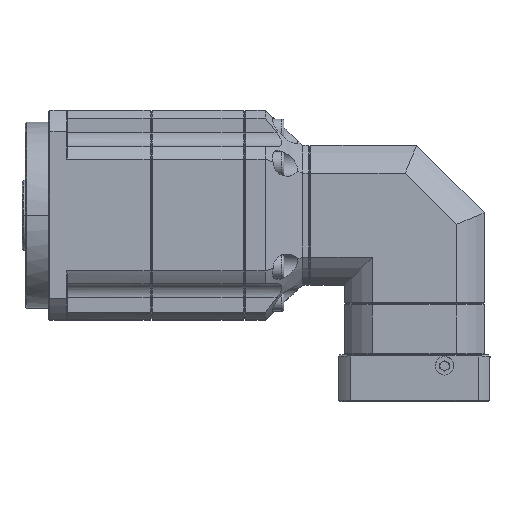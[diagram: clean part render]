
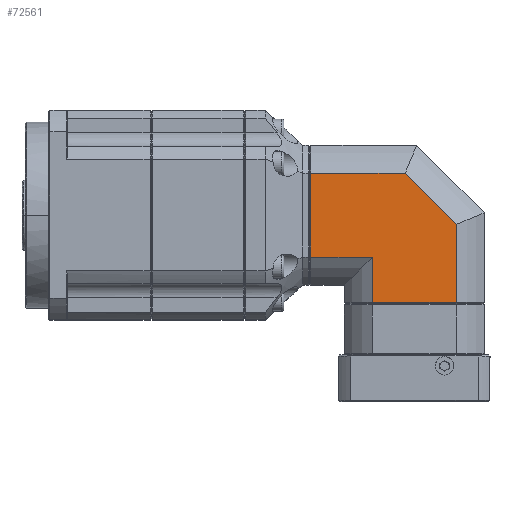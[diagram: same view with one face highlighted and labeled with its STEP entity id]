
A CAD part, top view. The second image highlights one B-rep face of the part: STEP entity #72561.
In plain terms, the highlighted planar face has unit normal (0, 0, -1).
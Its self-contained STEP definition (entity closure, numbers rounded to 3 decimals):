
#172 = VERTEX_POINT ( 'NONE', #29358 ) ;
#2517 = DIRECTION ( 'NONE',  ( 0., 1., 0. ) ) ;
#3043 = CARTESIAN_POINT ( 'NONE',  ( 153.764, -18.028, 30. ) ) ;
#5161 = LINE ( 'NONE', #10474, #7546 ) ;
#6766 = VECTOR ( 'NONE', #32913, 1000. ) ;
#6924 = ORIENTED_EDGE ( 'NONE', *, *, #64419, .T. ) ;
#7546 = VECTOR ( 'NONE', #17977, 1000. ) ;
#9779 = CARTESIAN_POINT ( 'NONE',  ( 148.972, -27.705, 30. ) ) ;
#10474 = CARTESIAN_POINT ( 'NONE',  ( 122.5, -9.736, 30. ) ) ;
#12072 = CARTESIAN_POINT ( 'NONE',  ( 185.028, -37.5, 30. ) ) ;
#12885 = LINE ( 'NONE', #3043, #82631 ) ;
#13718 = CARTESIAN_POINT ( 'NONE',  ( 122.5, -18.028, 30. ) ) ;
#15113 = VERTEX_POINT ( 'NONE', #49266 ) ;
#15847 = ORIENTED_EDGE ( 'NONE', *, *, #60584, .T. ) ;
#16833 = PLANE ( 'NONE',  #87055 ) ;
#17977 = DIRECTION ( 'NONE',  ( 0., -1., 0. ) ) ;
#19817 = VERTEX_POINT ( 'NONE', #65648 ) ;
#19818 = ORIENTED_EDGE ( 'NONE', *, *, #46006, .F. ) ;
#19839 = VERTEX_POINT ( 'NONE', #64988 ) ;
#21701 = CARTESIAN_POINT ( 'NONE',  ( 167., -37.5, 30. ) ) ;
#21931 = ORIENTED_EDGE ( 'NONE', *, *, #44510, .F. ) ;
#26176 = ORIENTED_EDGE ( 'NONE', *, *, #80128, .F. ) ;
#26428 = EDGE_CURVE ( 'NONE', #19817, #57929, #67269, .T. ) ;
#29358 = CARTESIAN_POINT ( 'NONE',  ( 122.5, 18.028, 30. ) ) ;
#30498 = CARTESIAN_POINT ( 'NONE',  ( 163.041, 18.028, 30. ) ) ;
#31475 = CARTESIAN_POINT ( 'NONE',  ( 185.028, -9.736, 30. ) ) ;
#32913 = DIRECTION ( 'NONE',  ( -0.707, 0.707, 0. ) ) ;
#33297 = DIRECTION ( 'NONE',  ( 1., 0., 0. ) ) ;
#34879 = VECTOR ( 'NONE', #2517, 1000. ) ;
#35313 = VECTOR ( 'NONE', #77333, 1000. ) ;
#38205 = EDGE_CURVE ( 'NONE', #172, #68119, #5161, .T. ) ;
#38819 = VECTOR ( 'NONE', #81178, 1000. ) ;
#44146 = FACE_OUTER_BOUND ( 'NONE', #64121, .T. ) ;
#44510 = EDGE_CURVE ( 'NONE', #68119, #15113, #12885, .T. ) ;
#46006 = EDGE_CURVE ( 'NONE', #89413, #19817, #67481, .T. ) ;
#49266 = CARTESIAN_POINT ( 'NONE',  ( 148.972, -18.028, 30. ) ) ;
#52755 = ORIENTED_EDGE ( 'NONE', *, *, #26428, .F. ) ;
#54792 = VECTOR ( 'NONE', #68640, 1000. ) ;
#57929 = VERTEX_POINT ( 'NONE', #30498 ) ;
#57995 = ORIENTED_EDGE ( 'NONE', *, *, #38205, .F. ) ;
#60584 = EDGE_CURVE ( 'NONE', #89413, #19839, #69042, .T. ) ;
#61033 = CARTESIAN_POINT ( 'NONE',  ( 122.5, -37.5, 30. ) ) ;
#62286 = DIRECTION ( 'NONE',  ( 0., 1., 0. ) ) ;
#64121 = EDGE_LOOP ( 'NONE', ( #21931, #57995, #26176, #52755, #19818, #15847, #6924 ) ) ;
#64419 = EDGE_CURVE ( 'NONE', #19839, #15113, #71041, .T. ) ;
#64988 = CARTESIAN_POINT ( 'NONE',  ( 148.972, -37.5, 30. ) ) ;
#65648 = CARTESIAN_POINT ( 'NONE',  ( 185.028, -3.959, 30. ) ) ;
#67269 = LINE ( 'NONE', #77467, #6766 ) ;
#67481 = LINE ( 'NONE', #31475, #34879 ) ;
#68119 = VERTEX_POINT ( 'NONE', #13718 ) ;
#68640 = DIRECTION ( 'NONE',  ( 0., 1., 0. ) ) ;
#69042 = LINE ( 'NONE', #21701, #38819 ) ;
#69464 = DIRECTION ( 'NONE',  ( 0., 0., -1. ) ) ;
#71041 = LINE ( 'NONE', #9779, #54792 ) ;
#72561 = ADVANCED_FACE ( 'NONE', ( #44146 ), #16833, .T. ) ;
#73697 = LINE ( 'NONE', #91616, #35313 ) ;
#77333 = DIRECTION ( 'NONE',  ( -1., 0., 0. ) ) ;
#77467 = CARTESIAN_POINT ( 'NONE',  ( 188.708, -7.64, 30. ) ) ;
#80128 = EDGE_CURVE ( 'NONE', #57929, #172, #73697, .T. ) ;
#81178 = DIRECTION ( 'NONE',  ( -1., 0., 0. ) ) ;
#82631 = VECTOR ( 'NONE', #33297, 1000. ) ;
#87055 = AXIS2_PLACEMENT_3D ( 'NONE', #61033, #69464, #62286 ) ;
#89413 = VERTEX_POINT ( 'NONE', #12072 ) ;
#91616 = CARTESIAN_POINT ( 'NONE',  ( 153.764, 18.028, 30. ) ) ;
